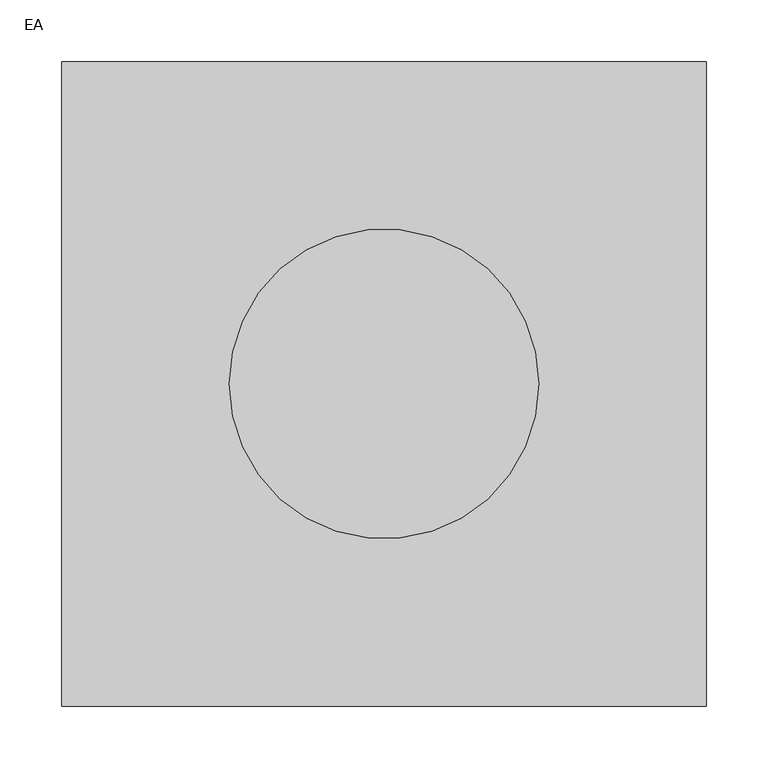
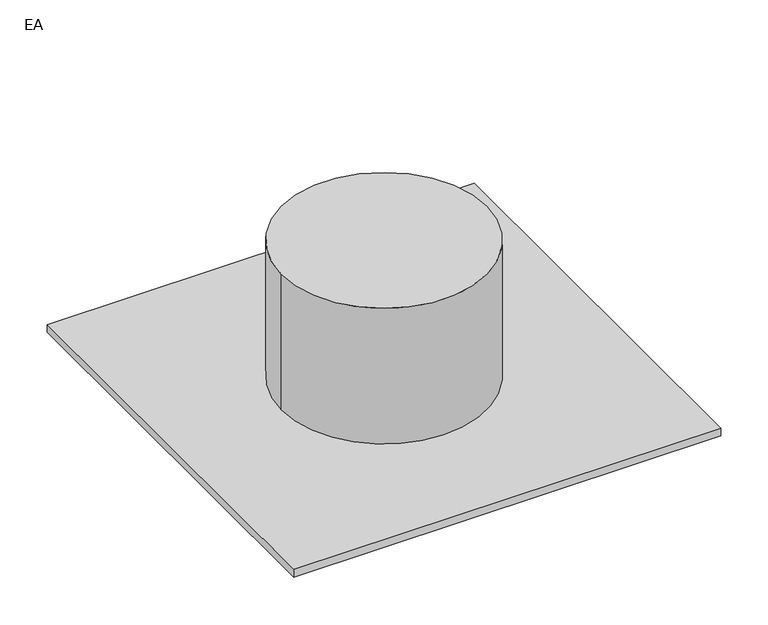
"""IFC4 building model written with IfcOpenShell, lengths in millimetres: air terminal geometry, 031_シーリングディフューザー : EA."""

from ifc_helpers import new_model, si_unit, point, frame, origin, origin_with_axes, origin_2d, place, context, project, spatial, polyline, circle_curve, trimmed, segment, composite_curve, outline, extrude, source, transform, mapped, element, save


def ea_f921a2c0(model_context):
    return source(origin(), model_context, "Body", "SweptSolid", [
        extrude(outline(polyline([(260.0, 260.0), (260.0, -260.0), (-260.0, -260.0), (-260.0, 260.0), (260.0, 260.0)])), frame((0.0, 0.0, -10.0), z_axis=(0.0, 0.0, 1.0), x_axis=(1.0, 0.0, 0.0)), (0.0, 0.0, 1.0), 10.0),
        extrude(outline(composite_curve([segment(trimmed(circle_curve(origin_2d(), 125.0), [point((-125.0, 0.0))], [point((125.0, 0.0))], False, "CARTESIAN"), True, "CONTINUOUS"), segment(trimmed(circle_curve(origin_2d(), 125.0), [point((125.0, 0.0))], [point((-125.0, 0.0))], False, "CARTESIAN"), True, "CONTINUOUS")], self_intersect=False)), origin_with_axes(), (0.0, 0.0, 1.0), 175.0),
    ])


if __name__ == "__main__":
    model = new_model("IFC4")
    model_context = context("Model", 3, world=origin())
    ifc_project = project(units=[si_unit("LENGTHUNIT", "METRE", prefix="MILLI")], contexts=[model_context])
    site = spatial("IfcSite", under=ifc_project)
    building = spatial("IfcBuilding", under=site)
    placement = place(None, origin())
    ea_shape = ea_f921a2c0(model_context)
    element("IfcAirTerminal", 1, ObjectType="031_シーリングディフューザー : EA", at=placement, inside=building, context=model_context, shape_type="MappedRepresentation", body=[
        mapped(ea_shape, transform((0.0, 0.0, 0.0), x_axis=(1.0, 0.0, 0.0), y_axis=(0.0, 1.0, 0.0), z_axis=(0.0, 0.0, 1.0))),
    ])
    save(model, "model.ifc")
